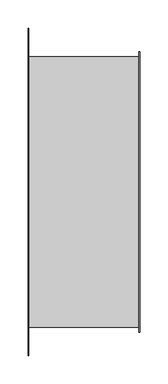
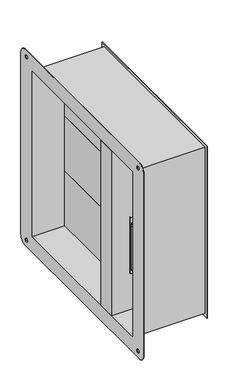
"""IFC4 building model written with IfcOpenShell, lengths in millimetres: damper geometry, СВ_КлапанПротивопожарныйЛифтовой_КДМ-2М-3-ЛС_НЗ_СтеновойПрямоугольный_СВОК : КДМ-3_Привод FS."""

from ifc_helpers import new_model, si_unit, point, frame, frame_2d, origin, origin_2d, place, context, project, spatial, polyline, circle_curve, trimmed, segment, composite_curve, outline, extrude, source, transform, mapped, element, save
from ifc_brep_helpers import plane_surface, cylinder_surface, revolved_surface, advanced_brep


def damper_035a5197(model_context):
    return source(origin(), model_context, "Body", "SolidModel", [
        extrude(outline(polyline([(10.0, -90.0), (-10.0, -90.0), (-10.0, 240.0), (10.0, 240.0), (10.0, -90.0)])), frame((0.0, 0.0, 80.0), z_axis=(0.0, 0.0, 1.0), x_axis=(1.0, 0.0, 0.0)), (0.0, 0.0, 1.0), 160.0),
        extrude(outline(polyline([(10.0, -90.0), (-10.0, -90.0), (-10.0, 240.0), (10.0, 240.0), (10.0, -90.0)])), frame((0.0, 0.0, -80.0), z_axis=(0.0, 0.0, 1.0), x_axis=(1.0, 0.0, 0.0)), (0.0, 0.0, 1.0), 160.0),
        extrude(outline(polyline([(10.0, -90.0), (-10.0, -90.0), (-10.0, 240.0), (10.0, 240.0), (10.0, -90.0)])), frame((0.0, 0.0, -240.0), z_axis=(0.0, 0.0, 1.0), x_axis=(1.0, 0.0, 0.0)), (0.0, 0.0, 1.0), 160.0),
        extrude(outline(polyline([(48.8298911, -140.0), (50.0298911, -140.0), (50.0298911, -145.0), (-50.0, -145.0), (-50.0, -140.0), (-48.8, -140.0), (-48.8, -143.8), (48.8298911, -143.8), (48.8298911, -140.0)])), frame((0.0, 0.0, -132.5), z_axis=(0.0, 0.0, 1.0), x_axis=(1.0, 0.0, 0.0)), (0.0, 0.0, 1.0), 162.5),
        extrude(outline(composite_curve([segment(polyline([(-116.1260091, 50.0298911), (8.1260091, 50.0298911)]), True, "CONTINUOUS"), segment(trimmed(circle_curve(frame_2d((8.1260091, 39.0)), 11.0298911), [point((8.1260091, 50.0298911))], [point((18.5819866, 42.5115572))], False, "CARTESIAN"), True, "CONTINUOUS"), segment(trimmed(circle_curve(frame_2d((-108.0, 0.0)), 133.5298911), [point((18.5819866, 42.5115572))], [point((18.5819866, -42.5115572))], False, "CARTESIAN"), True, "CONTINUOUS"), segment(trimmed(circle_curve(frame_2d((8.1260091, -39.0)), 11.0298911), [point((18.5819866, -42.5115572))], [point((8.1260091, -50.0298911))], False, "CARTESIAN"), True, "CONTINUOUS"), segment(polyline([(8.1260091, -50.0298911), (-116.1260091, -50.0298911)]), True, "CONTINUOUS"), segment(trimmed(circle_curve(frame_2d((-116.1260091, -39.0)), 11.0298911), [point((-116.1260091, -50.0298911))], [point((-126.5819866, -42.5115572))], False, "CARTESIAN"), True, "CONTINUOUS"), segment(trimmed(circle_curve(origin_2d(), 133.5298911), [point((-126.5819866, -42.5115572))], [point((-126.5819866, 42.5115572))], False, "CARTESIAN"), True, "CONTINUOUS"), segment(trimmed(circle_curve(frame_2d((-116.1260091, 39.0)), 11.0298911), [point((-126.5819866, 42.5115572))], [point((-116.1260091, 50.0298911))], False, "CARTESIAN"), True, "CONTINUOUS")], self_intersect=False), holes=[composite_curve([segment(trimmed(circle_curve(frame_2d((-108.0, 0.0)), 132.5), [point((17.6056834, -42.1836735))], [point((17.6056834, 42.1836735))], True, "CARTESIAN"), True, "CONTINUOUS"), segment(trimmed(circle_curve(frame_2d((8.1260091, 39.0)), 10.0), [point((17.6056834, 42.1836735))], [point((8.1260091, 49.0))], True, "CARTESIAN"), True, "CONTINUOUS"), segment(polyline([(8.1260091, 49.0), (-116.1260091, 49.0)]), True, "CONTINUOUS"), segment(trimmed(circle_curve(frame_2d((-116.1260091, 39.0)), 10.0), [point((-116.1260091, 49.0))], [point((-125.6056834, 42.1836735))], True, "CARTESIAN"), True, "CONTINUOUS"), segment(trimmed(circle_curve(origin_2d(), 132.5), [point((-125.6056834, 42.1836735))], [point((-125.6056834, -42.1836735))], True, "CARTESIAN"), True, "CONTINUOUS"), segment(trimmed(circle_curve(frame_2d((-116.1260091, -39.0)), 10.0), [point((-125.6056834, -42.1836735))], [point((-116.1260091, -49.0))], True, "CARTESIAN"), True, "CONTINUOUS"), segment(polyline([(-116.1260091, -49.0), (8.1260091, -49.0)]), True, "CONTINUOUS"), segment(trimmed(circle_curve(frame_2d((8.1260091, -39.0)), 10.0), [point((8.1260091, -49.0))], [point((17.6056834, -42.1836735))], True, "CARTESIAN"), True, "CONTINUOUS")], self_intersect=False)]), frame((0.0, -147.0, 0.0), z_axis=(0.0, 1.0, 0.0), x_axis=(0.0, 0.0, 1.0)), (0.0, 0.0, 1.0), 2.0),
        advanced_brep(
        [(42.1836735, -201.0, 17.6056834), (49.0, -201.0, 8.1260091), (49.0, -203.0, 8.1260091), (42.1836735, -203.0, 17.6056834), (42.5115572, -204.0, 18.5819866), (50.0298911, -204.0, 8.1260091), (50.0298911, -201.0, 8.1260091), (42.5115572, -201.0, 18.5819866), (41.5469388, -203.0, 15.7097485), (47.0, -203.0, 8.1260091), (47.0, -204.0, 8.1260091), (41.5469388, -204.0, 15.7097485), (-42.1836735, -201.0, 17.6056834), (-42.1836735, -203.0, 17.6056834), (-42.5115572, -204.0, 18.5819866), (-42.5115572, -201.0, 18.5819866), (-41.5469388, -203.0, 15.7097485), (-41.5469388, -204.0, 15.7097485), (-49.0, -201.0, 8.1260091), (-49.0, -203.0, 8.1260091), (-50.0298911, -204.0, 8.1260091), (-50.0298911, -201.0, 8.1260091), (-47.0, -203.0, 8.1260091), (-47.0, -204.0, 8.1260091), (-49.0, -203.0, -116.1260091), (-49.0, -201.0, -116.1260091), (-50.0298911, -201.0, -116.1260091), (-50.0298911, -204.0, -116.1260091), (-47.0, -204.0, -116.1260091), (-47.0, -203.0, -116.1260091), (-42.1836735, -201.0, -125.6056834), (-42.1836735, -203.0, -125.6056834), (-42.5115572, -204.0, -126.5819866), (-42.5115572, -201.0, -126.5819866), (-41.5469388, -203.0, -123.7097485), (-41.5469388, -204.0, -123.7097485), (42.1836735, -201.0, -125.6056834), (42.1836735, -203.0, -125.6056834), (42.5115572, -204.0, -126.5819866), (42.5115572, -201.0, -126.5819866), (41.5469388, -203.0, -123.7097485), (41.5469388, -204.0, -123.7097485), (49.0, -201.0, -116.1260091), (49.0, -203.0, -116.1260091), (50.0298911, -204.0, -116.1260091), (50.0298911, -201.0, -116.1260091), (47.0, -203.0, -116.1260091), (47.0, -204.0, -116.1260091)],
        [
            (0, 1, circle_curve(frame((39.0, -201.0, 8.1260091), z_axis=(0.0, 1.0, 0.0), x_axis=(1.0, 0.0, 0.0)), 10.0)),
            (1, 2),
            (2, 3, circle_curve(frame((39.0, -203.0, 8.1260091), z_axis=(0.0, -1.0, 0.0), x_axis=(1.0, 0.0, 0.0)), 10.0)),
            (3, 0),
            (4, 5, circle_curve(frame((39.0, -204.0, 8.1260091), z_axis=(0.0, 1.0, 0.0), x_axis=(1.0, 0.0, 0.0)), 11.0298911)),
            (5, 6),
            (6, 7, circle_curve(frame((39.0, -201.0, 8.1260091), z_axis=(0.0, -1.0, 0.0), x_axis=(1.0, 0.0, 0.0)), 11.0298911)),
            (7, 4),
            (8, 9, circle_curve(frame((39.0, -203.0, 8.1260091), z_axis=(0.0, 1.0, 0.0), x_axis=(1.0, 0.0, 0.0)), 8.0)),
            (9, 10),
            (10, 11, circle_curve(frame((39.0, -204.0, 8.1260091), z_axis=(0.0, -1.0, 0.0), x_axis=(1.0, 0.0, 0.0)), 8.0)),
            (11, 8),
            (12, 0, circle_curve(frame((0.0, -201.0, -108.0), z_axis=(0.0, 1.0, 0.0), x_axis=(0.31836734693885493, 0.0, 0.9479674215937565)), 132.5)),
            (3, 13, circle_curve(frame((0.0, -203.0, -108.0), z_axis=(0.0, -1.0, 0.0), x_axis=(0.31836734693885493, 0.0, 0.9479674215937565)), 132.5)),
            (13, 12),
            (14, 4, circle_curve(frame((0.0, -204.0, -108.0), z_axis=(0.0, 1.0, 0.0), x_axis=(0.31836734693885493, 0.0, 0.9479674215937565)), 133.5298911)),
            (7, 15, circle_curve(frame((0.0, -201.0, -108.0), z_axis=(0.0, -1.0, 0.0), x_axis=(0.31836734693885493, 0.0, 0.9479674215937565)), 133.5298911)),
            (15, 14),
            (16, 8, circle_curve(frame((0.0, -203.0, -108.0), z_axis=(0.0, 1.0, 0.0), x_axis=(0.31836734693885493, 0.0, 0.9479674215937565)), 130.5)),
            (11, 17, circle_curve(frame((0.0, -204.0, -108.0), z_axis=(0.0, -1.0, 0.0), x_axis=(0.31836734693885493, 0.0, 0.9479674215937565)), 130.5)),
            (17, 16),
            (18, 12, circle_curve(frame((-39.0, -201.0, 8.1260091), z_axis=(0.0, 1.0, 0.0), x_axis=(-0.31836734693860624, 0.0, 0.94796742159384)), 10.0)),
            (13, 19, circle_curve(frame((-39.0, -203.0, 8.1260091), z_axis=(0.0, -1.0, 0.0), x_axis=(-0.31836734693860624, 0.0, 0.94796742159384)), 10.0)),
            (19, 18),
            (20, 14, circle_curve(frame((-39.0, -204.0, 8.1260091), z_axis=(0.0, 1.0, 0.0), x_axis=(-0.31836734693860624, 0.0, 0.94796742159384)), 11.0298911)),
            (15, 21, circle_curve(frame((-39.0, -201.0, 8.1260091), z_axis=(0.0, -1.0, 0.0), x_axis=(-0.31836734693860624, 0.0, 0.94796742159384)), 11.0298911)),
            (21, 20),
            (22, 16, circle_curve(frame((-39.0, -203.0, 8.1260091), z_axis=(0.0, 1.0, 0.0), x_axis=(-0.31836734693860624, 0.0, 0.94796742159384)), 8.0)),
            (17, 23, circle_curve(frame((-39.0, -204.0, 8.1260091), z_axis=(0.0, -1.0, 0.0), x_axis=(-0.31836734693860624, 0.0, 0.94796742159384)), 8.0)),
            (23, 22),
            (19, 24),
            (24, 25),
            (25, 18),
            (21, 26),
            (26, 27),
            (27, 20),
            (23, 28),
            (28, 29),
            (29, 22),
            (30, 25, circle_curve(frame((-39.0, -201.0, -116.1260091), z_axis=(0.0, 1.0, 0.0), x_axis=(-1.0, 0.0, 0.0)), 10.0)),
            (24, 31, circle_curve(frame((-39.0, -203.0, -116.1260091), z_axis=(0.0, -1.0, 0.0), x_axis=(-1.0, 0.0, 0.0)), 10.0)),
            (31, 30),
            (32, 27, circle_curve(frame((-39.0, -204.0, -116.1260091), z_axis=(0.0, 1.0, 0.0), x_axis=(-1.0, 0.0, 0.0)), 11.0298911)),
            (26, 33, circle_curve(frame((-39.0, -201.0, -116.1260091), z_axis=(0.0, -1.0, 0.0), x_axis=(-1.0, 0.0, 0.0)), 11.0298911)),
            (33, 32),
            (34, 29, circle_curve(frame((-39.0, -203.0, -116.1260091), z_axis=(0.0, 1.0, 0.0), x_axis=(-1.0, 0.0, 0.0)), 8.0)),
            (28, 35, circle_curve(frame((-39.0, -204.0, -116.1260091), z_axis=(0.0, -1.0, 0.0), x_axis=(-1.0, 0.0, 0.0)), 8.0)),
            (35, 34),
            (36, 30, circle_curve(frame((0.0, -201.0, 0.0), z_axis=(0.0, 1.0, 0.0), x_axis=(-0.3183673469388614, 0.0, -0.9479674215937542)), 132.5)),
            (31, 37, circle_curve(frame((0.0, -203.0, 0.0), z_axis=(0.0, -1.0, 0.0), x_axis=(-0.3183673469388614, 0.0, -0.9479674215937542)), 132.5)),
            (37, 36),
            (38, 32, circle_curve(frame((0.0, -204.0, 0.0), z_axis=(0.0, 1.0, 0.0), x_axis=(-0.3183673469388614, 0.0, -0.9479674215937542)), 133.5298911)),
            (33, 39, circle_curve(frame((0.0, -201.0, 0.0), z_axis=(0.0, -1.0, 0.0), x_axis=(-0.3183673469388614, 0.0, -0.9479674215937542)), 133.5298911)),
            (39, 38),
            (40, 34, circle_curve(frame((0.0, -203.0, 0.0), z_axis=(0.0, 1.0, 0.0), x_axis=(-0.3183673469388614, 0.0, -0.9479674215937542)), 130.5)),
            (35, 41, circle_curve(frame((0.0, -204.0, 0.0), z_axis=(0.0, -1.0, 0.0), x_axis=(-0.3183673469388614, 0.0, -0.9479674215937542)), 130.5)),
            (41, 40),
            (42, 36, circle_curve(frame((39.0, -201.0, -116.1260091), z_axis=(0.0, 1.0, 0.0), x_axis=(0.3183673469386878, 0.0, -0.9479674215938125)), 10.0)),
            (37, 43, circle_curve(frame((39.0, -203.0, -116.1260091), z_axis=(0.0, -1.0, 0.0), x_axis=(0.3183673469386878, 0.0, -0.9479674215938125)), 10.0)),
            (43, 42),
            (44, 38, circle_curve(frame((39.0, -204.0, -116.1260091), z_axis=(0.0, 1.0, 0.0), x_axis=(0.3183673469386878, 0.0, -0.9479674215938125)), 11.0298911)),
            (39, 45, circle_curve(frame((39.0, -201.0, -116.1260091), z_axis=(0.0, -1.0, 0.0), x_axis=(0.3183673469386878, 0.0, -0.9479674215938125)), 11.0298911)),
            (45, 44),
            (46, 40, circle_curve(frame((39.0, -203.0, -116.1260091), z_axis=(0.0, 1.0, 0.0), x_axis=(0.3183673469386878, 0.0, -0.9479674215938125)), 8.0)),
            (41, 47, circle_curve(frame((39.0, -204.0, -116.1260091), z_axis=(0.0, -1.0, 0.0), x_axis=(0.3183673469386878, 0.0, -0.9479674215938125)), 8.0)),
            (47, 46),
            (2, 43),
            (46, 9),
            (1, 42),
            (6, 45),
            (5, 44),
            (10, 47),
        ],
        [
            revolved_surface(polyline([(49.0, -203.0, 8.1260091), (49.0, -201.0, 8.1260091)]), (39.0, -203.0, 8.1260091), (0.0, -1.0, 0.0)),
            cylinder_surface(frame((39.0, -203.0, 8.1260091), z_axis=(0.0, -1.0, 0.0), x_axis=(1.0, 0.0, 0.0)), 11.0298911),
            revolved_surface(polyline([(47.0, -204.0, 8.1260091), (47.0, -203.0, 8.1260091)]), (39.0, -203.0, 8.1260091), (0.0, -1.0, 0.0)),
            revolved_surface(polyline([(42.18367346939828, -203.0, 17.605683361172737), (42.18367346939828, -201.0, 17.605683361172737)]), (0.0, -203.0, -108.0), (0.0, -1.0, 0.0)),
            cylinder_surface(frame((0.0, -203.0, -108.0), z_axis=(0.0, -1.0, 0.0), x_axis=(0.31836734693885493, 0.0, 0.9479674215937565)), 133.5298911),
            revolved_surface(polyline([(41.546938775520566, -204.0, 15.709748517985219), (41.546938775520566, -203.0, 15.709748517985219)]), (0.0, -203.0, -108.0), (0.0, -1.0, 0.0)),
            revolved_surface(polyline([(-42.183673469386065, -203.0, 17.6056833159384), (-42.183673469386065, -201.0, 17.6056833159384)]), (-39.0, -203.0, 8.1260091), (0.0, -1.0, 0.0)),
            cylinder_surface(frame((-39.0, -203.0, 8.1260091), z_axis=(0.0, -1.0, 0.0), x_axis=(-0.31836734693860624, 0.0, 0.94796742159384)), 11.0298911),
            revolved_surface(polyline([(-41.54693877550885, -204.0, 15.709748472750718), (-41.54693877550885, -203.0, 15.709748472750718)]), (-39.0, -203.0, 8.1260091), (0.0, -1.0, 0.0)),
            plane_surface(frame((-49.0, -203.0, 8.1260091), z_axis=(1.0, 0.0, 0.0), x_axis=(0.0, 0.0, -1.0))),
            plane_surface(frame((-50.0298911, -201.0, 8.1260091), z_axis=(-1.0, 0.0, 0.0), x_axis=(0.0, 0.0, -1.0))),
            plane_surface(frame((-47.0, -204.0, 8.1260091), z_axis=(1.0, 0.0, 0.0), x_axis=(0.0, 0.0, -1.0))),
            revolved_surface(polyline([(-49.0, -203.0, -116.1260091), (-49.0, -201.0, -116.1260091)]), (-39.0, -203.0, -116.1260091), (0.0, -1.0, 0.0)),
            cylinder_surface(frame((-39.0, -203.0, -116.1260091), z_axis=(0.0, -1.0, 0.0), x_axis=(-1.0, 0.0, 0.0)), 11.0298911),
            revolved_surface(polyline([(-47.0, -204.0, -116.1260091), (-47.0, -203.0, -116.1260091)]), (-39.0, -203.0, -116.1260091), (0.0, -1.0, 0.0)),
            revolved_surface(polyline([(-42.18367346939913, -203.0, -125.60568336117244), (-42.18367346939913, -201.0, -125.60568336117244)]), (0.0, -203.0, 0.0), (0.0, -1.0, 0.0)),
            cylinder_surface(frame((0.0, -203.0, 0.0), z_axis=(0.0, -1.0, 0.0), x_axis=(-0.3183673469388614, 0.0, -0.9479674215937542)), 133.5298911),
            revolved_surface(polyline([(-41.54693877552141, -204.0, -123.70974851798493), (-41.54693877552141, -203.0, -123.70974851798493)]), (0.0, -203.0, 0.0), (0.0, -1.0, 0.0)),
            revolved_surface(polyline([(42.183673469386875, -203.0, -125.60568331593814), (42.183673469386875, -201.0, -125.60568331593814)]), (39.0, -203.0, -116.1260091), (0.0, -1.0, 0.0)),
            cylinder_surface(frame((39.0, -203.0, -116.1260091), z_axis=(0.0, -1.0, 0.0), x_axis=(0.3183673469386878, 0.0, -0.9479674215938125)), 11.0298911),
            revolved_surface(polyline([(41.5469387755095, -204.0, -123.7097484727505), (41.5469387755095, -203.0, -123.7097484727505)]), (39.0, -203.0, -116.1260091), (0.0, -1.0, 0.0)),
            plane_surface(frame((47.0, -203.0, -116.1260091), z_axis=(0.0, 1.0, 0.0), x_axis=(0.0, 0.0, 1.0))),
            plane_surface(frame((49.0, -203.0, -116.1260091), z_axis=(-1.0, 0.0, 0.0), x_axis=(0.0, 0.0, 1.0))),
            plane_surface(frame((49.0, -201.0, -116.1260091), z_axis=(0.0, 1.0, 0.0), x_axis=(0.0, 0.0, 1.0))),
            plane_surface(frame((50.0298911, -201.0, -116.1260091), z_axis=(1.0, 0.0, 0.0), x_axis=(0.0, 0.0, 1.0))),
            plane_surface(frame((50.0298911, -204.0, -116.1260091), z_axis=(0.0, -1.0, 0.0), x_axis=(0.0, 0.0, 1.0))),
            plane_surface(frame((47.0, -204.0, -116.1260091), z_axis=(-1.0, 0.0, 0.0), x_axis=(0.0, 0.0, 1.0))),
        ],
        [
            (0, [[1, 2, 3, 4]]),
            (1, [[5, 6, 7, 8]]),
            (2, [[9, 10, 11, 12]]),
            (3, [[13, -4, 14, 15]]),
            (4, [[16, -8, 17, 18]]),
            (5, [[19, -12, 20, 21]]),
            (6, [[22, -15, 23, 24]]),
            (7, [[25, -18, 26, 27]]),
            (8, [[28, -21, 29, 30]]),
            (9, [[-24, 31, 32, 33]]),
            (10, [[-27, 34, 35, 36]]),
            (11, [[-30, 37, 38, 39]]),
            (12, [[40, -32, 41, 42]]),
            (13, [[43, -35, 44, 45]]),
            (14, [[46, -38, 47, 48]]),
            (15, [[49, -42, 50, 51]]),
            (16, [[52, -45, 53, 54]]),
            (17, [[55, -48, 56, 57]]),
            (18, [[58, -51, 59, 60]]),
            (19, [[61, -54, 62, 63]]),
            (20, [[64, -57, 65, 66]]),
            (21, [[67, -59, -50, -41, -31, -23, -14, -3], [-55, -64, 68, -9, -19, -28, -39, -46]]),
            (22, [[-60, -67, -2, 69]]),
            (23, [[70, -62, -53, -44, -34, -26, -17, -7], [-49, -58, -69, -1, -13, -22, -33, -40]]),
            (24, [[-63, -70, -6, 71]]),
            (25, [[-52, -61, -71, -5, -16, -25, -36, -43], [72, -65, -56, -47, -37, -29, -20, -11]]),
            (26, [[-66, -72, -10, -68]]),
        ],
    ),
        advanced_brep(
        [(15.0, -174.0, -132.5), (35.0, -174.0, -132.5), (36.9771465, -174.0, -132.5), (13.0228535, -174.0, -132.5), (36.9771465, -174.0, -135.4915282), (13.0228535, -174.0, -135.4915282), (32.9771465, -174.0, -135.4915282), (17.0228535, -174.0, -135.4915282), (32.9771465, -174.0, -137.4754985), (17.0228535, -174.0, -137.4754985), (37.9771465, -174.0, -137.4754985), (12.0228535, -174.0, -137.4754985), (37.9771465, -174.0, -147.4754985), (12.0228535, -174.0, -147.4754985), (34.4416126, -174.0, -151.0110324), (15.5583874, -174.0, -151.0110324), (25.0, -174.0, -151.0110324), (25.0, -174.0, -120.900028), (35.0, -174.0, -120.900028), (15.0, -174.0, -120.900028)],
        [
            (0, 1, circle_curve(frame((25.0, -174.0, -132.5), z_axis=(0.0, 0.0, -1.0), x_axis=(1.0, 0.0, 0.0)), 10.0)),
            (1, 2),
            (2, 3, circle_curve(frame((25.0, -174.0, -132.5), z_axis=(0.0, 0.0, 1.0), x_axis=(1.0, 0.0, 0.0)), 11.9771465)),
            (3, 0),
            (1, 0, circle_curve(frame((25.0, -174.0, -132.5), z_axis=(0.0, 0.0, -1.0), x_axis=(1.0, 0.0, 0.0)), 10.0)),
            (3, 2, circle_curve(frame((25.0, -174.0, -132.5), z_axis=(0.0, 0.0, 1.0), x_axis=(1.0, 0.0, 0.0)), 11.9771465)),
            (2, 4),
            (4, 5, circle_curve(frame((25.0, -174.0, -135.4915282), z_axis=(0.0, 0.0, 1.0), x_axis=(1.0, 0.0, 0.0)), 11.9771465)),
            (5, 3),
            (5, 4, circle_curve(frame((25.0, -174.0, -135.4915282), z_axis=(0.0, 0.0, 1.0), x_axis=(1.0, 0.0, 0.0)), 11.9771465)),
            (4, 6),
            (6, 7, circle_curve(frame((25.0, -174.0, -135.4915282), z_axis=(0.0, 0.0, 1.0), x_axis=(1.0, 0.0, 0.0)), 7.9771465)),
            (7, 5),
            (7, 6, circle_curve(frame((25.0, -174.0, -135.4915282), z_axis=(0.0, 0.0, 1.0), x_axis=(1.0, 0.0, 0.0)), 7.9771465)),
            (6, 8),
            (8, 9, circle_curve(frame((25.0, -174.0, -137.4754985), z_axis=(0.0, 0.0, 1.0), x_axis=(1.0, 0.0, 0.0)), 7.9771465)),
            (9, 7),
            (9, 8, circle_curve(frame((25.0, -174.0, -137.4754985), z_axis=(0.0, 0.0, 1.0), x_axis=(1.0, 0.0, 0.0)), 7.9771465)),
            (8, 10),
            (10, 11, circle_curve(frame((25.0, -174.0, -137.4754985), z_axis=(0.0, 0.0, 1.0), x_axis=(1.0, 0.0, 0.0)), 12.9771465)),
            (11, 9),
            (11, 10, circle_curve(frame((25.0, -174.0, -137.4754985), z_axis=(0.0, 0.0, 1.0), x_axis=(1.0, 0.0, 0.0)), 12.9771465)),
            (10, 12),
            (12, 13, circle_curve(frame((25.0, -174.0, -147.4754985), z_axis=(0.0, 0.0, 1.0), x_axis=(1.0, 0.0, 0.0)), 12.9771465)),
            (13, 11),
            (13, 12, circle_curve(frame((25.0, -174.0, -147.4754985), z_axis=(0.0, 0.0, 1.0), x_axis=(1.0, 0.0, 0.0)), 12.9771465)),
            (12, 14),
            (14, 15, circle_curve(frame((25.0, -174.0, -151.0110324), z_axis=(0.0, 0.0, 1.0), x_axis=(1.0, 0.0, 0.0)), 9.4416126)),
            (15, 13),
            (15, 14, circle_curve(frame((25.0, -174.0, -151.0110324), z_axis=(0.0, 0.0, 1.0), x_axis=(1.0, 0.0, 0.0)), 9.4416126)),
            (14, 16),
            (16, 15),
            (17, 18),
            (18, 19, circle_curve(frame((25.0, -174.0, -120.900028), z_axis=(0.0, 0.0, 1.0), x_axis=(1.0, 0.0, 0.0)), 10.0)),
            (19, 17),
            (19, 18, circle_curve(frame((25.0, -174.0, -120.900028), z_axis=(0.0, 0.0, 1.0), x_axis=(1.0, 0.0, 0.0)), 10.0)),
            (18, 1),
            (0, 19),
        ],
        [
            plane_surface(frame((25.0, -174.0, -132.5), z_axis=(0.0, 0.0, 1.0), x_axis=(1.0, 0.0, 0.0))),
            cylinder_surface(frame((25.0, -174.0, -461.314844), z_axis=(0.0, 0.0, 1.0), x_axis=(1.0, 0.0, 0.0)), 11.9771465),
            plane_surface(frame((25.0, -174.0, -135.4915282), z_axis=(0.0, 0.0, -1.0), x_axis=(1.0, 0.0, 0.0))),
            cylinder_surface(frame((25.0, -174.0, -461.314844), z_axis=(0.0, 0.0, 1.0), x_axis=(1.0, 0.0, 0.0)), 7.9771465),
            plane_surface(frame((25.0, -174.0, -137.4754985), z_axis=(0.0, 0.0, 1.0), x_axis=(1.0, 0.0, 0.0))),
            cylinder_surface(frame((25.0, -174.0, -461.314844), z_axis=(0.0, 0.0, 1.0), x_axis=(1.0, 0.0, 0.0)), 12.9771465),
            revolved_surface(polyline([(34.4416126, -174.0, -151.0110324), (37.9771465, -174.0, -147.4754985)]), (25.0, -174.0, -461.314844), (0.0, 0.0, 1.0)),
            plane_surface(frame((25.0, -174.0, -151.0110324), z_axis=(0.0, 0.0, -1.0), x_axis=(1.0, 0.0, 0.0))),
            plane_surface(frame((25.0, -174.0, -120.900028), z_axis=(0.0, 0.0, 1.0), x_axis=(1.0, 0.0, 0.0))),
            cylinder_surface(frame((25.0, -174.0, -461.314844), z_axis=(0.0, 0.0, 1.0), x_axis=(1.0, 0.0, 0.0)), 10.0),
        ],
        [
            (0, [[1, 2, 3, 4]]),
            (0, [[5, -4, 6, -2]]),
            (1, [[-3, 7, 8, 9]]),
            (1, [[-6, -9, 10, -7]]),
            (2, [[-8, 11, 12, 13]]),
            (2, [[-10, -13, 14, -11]]),
            (3, [[-12, 15, 16, 17]]),
            (3, [[-14, -17, 18, -15]]),
            (4, [[-16, 19, 20, 21]]),
            (4, [[-18, -21, 22, -19]]),
            (5, [[-20, 23, 24, 25]]),
            (5, [[-22, -25, 26, -23]]),
            (6, [[-24, 27, 28, 29]]),
            (6, [[-26, -29, 30, -27]]),
            (7, [[-28, 31, 32]]),
            (7, [[-30, -32, -31]]),
            (8, [[33, 34, 35]]),
            (8, [[-35, 36, -33]]),
            (9, [[-34, 37, -1, 38]]),
            (9, [[-36, -38, -5, -37]]),
        ],
    ),
        advanced_brep(
        [(-13.0228535, -174.0, -132.5), (-36.9771465, -174.0, -132.5), (-35.0, -174.0, -132.5), (-15.0, -174.0, -132.5), (-13.0228535, -174.0, -135.4915282), (-36.9771465, -174.0, -135.4915282), (-17.0228535, -174.0, -135.4915282), (-32.9771465, -174.0, -135.4915282), (-17.0228535, -174.0, -137.4754985), (-32.9771465, -174.0, -137.4754985), (-12.0228535, -174.0, -137.4754985), (-37.9771465, -174.0, -137.4754985), (-12.0228535, -174.0, -147.4754985), (-37.9771465, -174.0, -147.4754985), (-15.5583874, -174.0, -151.0110324), (-34.4416126, -174.0, -151.0110324), (-25.0, -174.0, -151.0110324), (-15.0, -174.0, -120.900028), (-35.0, -174.0, -120.900028), (-25.0, -174.0, -120.900028)],
        [
            (0, 1, circle_curve(frame((-25.0, -174.0, -132.5), z_axis=(0.0, 0.0, 1.0), x_axis=(-1.0, 0.0, 0.0)), 11.9771465)),
            (1, 2),
            (2, 3, circle_curve(frame((-25.0, -174.0, -132.5), z_axis=(0.0, 0.0, -1.0), x_axis=(-1.0, 0.0, 0.0)), 10.0)),
            (3, 0),
            (1, 0, circle_curve(frame((-25.0, -174.0, -132.5), z_axis=(0.0, 0.0, 1.0), x_axis=(-1.0, 0.0, 0.0)), 11.9771465)),
            (3, 2, circle_curve(frame((-25.0, -174.0, -132.5), z_axis=(0.0, 0.0, -1.0), x_axis=(-1.0, 0.0, 0.0)), 10.0)),
            (4, 5, circle_curve(frame((-25.0, -174.0, -135.4915282), z_axis=(0.0, 0.0, 1.0), x_axis=(-1.0, 0.0, 0.0)), 11.9771465)),
            (5, 1),
            (0, 4),
            (5, 4, circle_curve(frame((-25.0, -174.0, -135.4915282), z_axis=(0.0, 0.0, 1.0), x_axis=(-1.0, 0.0, 0.0)), 11.9771465)),
            (6, 7, circle_curve(frame((-25.0, -174.0, -135.4915282), z_axis=(0.0, 0.0, 1.0), x_axis=(-1.0, 0.0, 0.0)), 7.9771465)),
            (7, 5),
            (4, 6),
            (7, 6, circle_curve(frame((-25.0, -174.0, -135.4915282), z_axis=(0.0, 0.0, 1.0), x_axis=(-1.0, 0.0, 0.0)), 7.9771465)),
            (8, 9, circle_curve(frame((-25.0, -174.0, -137.4754985), z_axis=(0.0, 0.0, 1.0), x_axis=(-1.0, 0.0, 0.0)), 7.9771465)),
            (9, 7),
            (6, 8),
            (9, 8, circle_curve(frame((-25.0, -174.0, -137.4754985), z_axis=(0.0, 0.0, 1.0), x_axis=(-1.0, 0.0, 0.0)), 7.9771465)),
            (10, 11, circle_curve(frame((-25.0, -174.0, -137.4754985), z_axis=(0.0, 0.0, 1.0), x_axis=(-1.0, 0.0, 0.0)), 12.9771465)),
            (11, 9),
            (8, 10),
            (11, 10, circle_curve(frame((-25.0, -174.0, -137.4754985), z_axis=(0.0, 0.0, 1.0), x_axis=(-1.0, 0.0, 0.0)), 12.9771465)),
            (12, 13, circle_curve(frame((-25.0, -174.0, -147.4754985), z_axis=(0.0, 0.0, 1.0), x_axis=(-1.0, 0.0, 0.0)), 12.9771465)),
            (13, 11),
            (10, 12),
            (13, 12, circle_curve(frame((-25.0, -174.0, -147.4754985), z_axis=(0.0, 0.0, 1.0), x_axis=(-1.0, 0.0, 0.0)), 12.9771465)),
            (14, 15, circle_curve(frame((-25.0, -174.0, -151.0110324), z_axis=(0.0, 0.0, 1.0), x_axis=(-1.0, 0.0, 0.0)), 9.4416126)),
            (15, 13),
            (12, 14),
            (15, 14, circle_curve(frame((-25.0, -174.0, -151.0110324), z_axis=(0.0, 0.0, 1.0), x_axis=(-1.0, 0.0, 0.0)), 9.4416126)),
            (16, 15),
            (14, 16),
            (17, 18, circle_curve(frame((-25.0, -174.0, -120.900028), z_axis=(0.0, 0.0, 1.0), x_axis=(-1.0, 0.0, 0.0)), 10.0)),
            (18, 19),
            (19, 17),
            (18, 17, circle_curve(frame((-25.0, -174.0, -120.900028), z_axis=(0.0, 0.0, 1.0), x_axis=(-1.0, 0.0, 0.0)), 10.0)),
            (2, 18),
            (17, 3),
        ],
        [
            plane_surface(frame((-25.0, -174.0, -132.5), z_axis=(0.0, 0.0, 1.0), x_axis=(-1.0, 0.0, 0.0))),
            cylinder_surface(frame((-25.0, -174.0, -461.314844), z_axis=(0.0, 0.0, -1.0), x_axis=(-1.0, 0.0, 0.0)), 11.9771465),
            plane_surface(frame((-25.0, -174.0, -135.4915282), z_axis=(0.0, 0.0, -1.0), x_axis=(-1.0, 0.0, 0.0))),
            cylinder_surface(frame((-25.0, -174.0, -461.314844), z_axis=(0.0, 0.0, -1.0), x_axis=(-1.0, 0.0, 0.0)), 7.9771465),
            plane_surface(frame((-25.0, -174.0, -137.4754985), z_axis=(0.0, 0.0, 1.0), x_axis=(-1.0, 0.0, 0.0))),
            cylinder_surface(frame((-25.0, -174.0, -461.314844), z_axis=(0.0, 0.0, -1.0), x_axis=(-1.0, 0.0, 0.0)), 12.9771465),
            revolved_surface(polyline([(-37.9771465, -174.0, -147.4754985), (-34.4416126, -174.0, -151.0110324)]), (-25.0, -174.0, -461.314844), (0.0, 0.0, -1.0)),
            plane_surface(frame((-25.0, -174.0, -151.0110324), z_axis=(0.0, 0.0, -1.0), x_axis=(-1.0, 0.0, 0.0))),
            plane_surface(frame((-25.0, -174.0, -120.900028), z_axis=(0.0, 0.0, 1.0), x_axis=(-1.0, 0.0, 0.0))),
            cylinder_surface(frame((-25.0, -174.0, -461.314844), z_axis=(0.0, 0.0, -1.0), x_axis=(-1.0, 0.0, 0.0)), 10.0),
        ],
        [
            (0, [[1, 2, 3, 4]]),
            (0, [[5, -4, 6, -2]]),
            (1, [[7, 8, -1, 9]]),
            (1, [[10, -9, -5, -8]]),
            (2, [[11, 12, -7, 13]]),
            (2, [[14, -13, -10, -12]]),
            (3, [[15, 16, -11, 17]]),
            (3, [[18, -17, -14, -16]]),
            (4, [[19, 20, -15, 21]]),
            (4, [[22, -21, -18, -20]]),
            (5, [[23, 24, -19, 25]]),
            (5, [[26, -25, -22, -24]]),
            (6, [[27, 28, -23, 29]]),
            (6, [[30, -29, -26, -28]]),
            (7, [[31, -27, 32]]),
            (7, [[-32, -30, -31]]),
            (8, [[33, 34, 35]]),
            (8, [[36, -35, -34]]),
            (9, [[-3, 37, -33, 38]]),
            (9, [[-6, -38, -36, -37]]),
        ],
    ),
        extrude(outline(polyline([(-5.1832695, -2.9925621), (-5.1832695, 2.9925621), (0.0, 5.9851241), (5.1832695, 2.9925621), (5.1832695, -2.9925621), (0.0, -5.9851241), (-5.1832695, -2.9925621)])), frame((0.0, -203.0, 0.0), z_axis=(0.0, 1.0, 0.0), x_axis=(0.0, 0.0, 1.0)), (0.0, 0.0, 1.0), 63.0),
        advanced_brep(
        [(42.1836735, -203.0, -125.6056834), (49.0, -203.0, -116.1260091), (49.0, -203.0, 8.1260091), (42.1836735, -203.0, 17.6056834), (-42.1836735, -203.0, 17.6056834), (-49.0, -203.0, 8.1260091), (-49.0, -203.0, -116.1260091), (-42.1836735, -203.0, -125.6056834), (0.0, -203.0, -19.0), (0.0, -203.0, 19.0), (0.0, -203.0, -18.0), (0.0, -203.0, 18.0), (0.0, -203.0, -15.0), (0.0, -203.0, 15.0), (0.0, -203.0, -14.0), (0.0, -203.0, 14.0), (5.9954463, -203.0, 5.9954463), (5.9954463, -203.0, 2.4898351), (8.4852814, -203.0, 0.0), (5.9954463, -203.0, -2.4898351), (5.9954463, -203.0, -5.9954463), (2.4898351, -203.0, -5.9954463), (0.0, -203.0, -8.4852814), (-2.4898351, -203.0, -5.9954463), (-5.9954463, -203.0, -5.9954463), (-5.9954463, -203.0, -2.4898351), (-8.4852814, -203.0, 0.0), (-5.9954463, -203.0, 2.4898351), (-5.9954463, -203.0, 5.9954463), (-2.4898351, -203.0, 5.9954463), (0.0, -203.0, 8.4852814), (2.4898351, -203.0, 5.9954463), (42.1836735, -145.0, -125.6056834), (-42.1836735, -145.0, -125.6056834), (-49.0, -145.0, -116.1260091), (-49.0, -145.0, 8.1260091), (-42.1836735, -145.0, 17.6056834), (42.1836735, -145.0, 17.6056834), (49.0, -145.0, 8.1260091), (49.0, -145.0, -116.1260091), (0.0, -198.0, 19.0), (0.0, -198.0, -19.0), (0.0, -198.0, 18.0), (0.0, -198.0, -18.0), (0.0, -198.0, 15.0), (0.0, -198.0, -15.0), (0.0, -198.0, 14.0), (0.0, -198.0, -14.0), (5.9954463, -198.0, 2.4898351), (5.9954463, -198.0, 5.9954463), (2.4898351, -198.0, 5.9954463), (0.0, -198.0, 8.4852814), (-2.4898351, -198.0, 5.9954463), (-5.9954463, -198.0, 5.9954463), (-5.9954463, -198.0, 2.4898351), (-8.4852814, -198.0, 0.0), (-5.9954463, -198.0, -2.4898351), (-5.9954463, -198.0, -5.9954463), (-2.4898351, -198.0, -5.9954463), (0.0, -198.0, -8.4852814), (2.4898351, -198.0, -5.9954463), (5.9954463, -198.0, -5.9954463), (5.9954463, -198.0, -2.4898351), (8.4852814, -198.0, 0.0)],
        [
            (0, 1, circle_curve(frame((39.0, -203.0, -116.1260091), z_axis=(0.0, -1.0, 0.0), x_axis=(0.0, 0.0, -1.0)), 10.0)),
            (1, 2),
            (2, 3, circle_curve(frame((39.0, -203.0, 8.1260091), z_axis=(0.0, -1.0, 0.0), x_axis=(0.0, 0.0, -1.0)), 10.0)),
            (3, 4, circle_curve(frame((0.0, -203.0, -108.0), z_axis=(0.0, -1.0, 0.0), x_axis=(0.0, 0.0, -1.0)), 132.5)),
            (4, 5, circle_curve(frame((-39.0, -203.0, 8.1260091), z_axis=(0.0, -1.0, 0.0), x_axis=(0.0, 0.0, -1.0)), 10.0)),
            (5, 6),
            (6, 7, circle_curve(frame((-39.0, -203.0, -116.1260091), z_axis=(0.0, -1.0, 0.0), x_axis=(0.0, 0.0, -1.0)), 10.0)),
            (7, 0, circle_curve(frame((0.0, -203.0, 0.0), z_axis=(0.0, -1.0, 0.0), x_axis=(0.0, 0.0, -1.0)), 132.5)),
            (8, 9, circle_curve(frame((0.0, -203.0, 0.0), z_axis=(0.0, 1.0, 0.0), x_axis=(0.0, 0.0, -1.0)), 19.0)),
            (9, 8, circle_curve(frame((0.0, -203.0, 0.0), z_axis=(0.0, 1.0, 0.0), x_axis=(0.0, 0.0, -1.0)), 19.0)),
            (10, 11, circle_curve(frame((0.0, -203.0, 0.0), z_axis=(0.0, -1.0, 0.0), x_axis=(0.0, 0.0, -1.0)), 18.0)),
            (11, 10, circle_curve(frame((0.0, -203.0, 0.0), z_axis=(0.0, -1.0, 0.0), x_axis=(0.0, 0.0, -1.0)), 18.0)),
            (12, 13, circle_curve(frame((0.0, -203.0, 0.0), z_axis=(0.0, 1.0, 0.0), x_axis=(0.0, 0.0, -1.0)), 15.0)),
            (13, 12, circle_curve(frame((0.0, -203.0, 0.0), z_axis=(0.0, 1.0, 0.0), x_axis=(0.0, 0.0, -1.0)), 15.0)),
            (14, 15, circle_curve(frame((0.0, -203.0, 0.0), z_axis=(0.0, -1.0, 0.0), x_axis=(0.0, 0.0, -1.0)), 14.0)),
            (15, 14, circle_curve(frame((0.0, -203.0, 0.0), z_axis=(0.0, -1.0, 0.0), x_axis=(0.0, 0.0, -1.0)), 14.0)),
            (16, 17),
            (17, 18),
            (18, 19),
            (19, 20),
            (20, 21),
            (21, 22),
            (22, 23),
            (23, 24),
            (24, 25),
            (25, 26),
            (26, 27),
            (27, 28),
            (28, 29),
            (29, 30),
            (30, 31),
            (31, 16),
            (32, 33, circle_curve(frame((0.0, -145.0, 0.0), z_axis=(0.0, 1.0, 0.0), x_axis=(0.0, 0.0, -1.0)), 132.5)),
            (33, 34, circle_curve(frame((-39.0, -145.0, -116.1260091), z_axis=(0.0, 1.0, 0.0), x_axis=(0.0, 0.0, -1.0)), 10.0)),
            (34, 35),
            (35, 36, circle_curve(frame((-39.0, -145.0, 8.1260091), z_axis=(0.0, 1.0, 0.0), x_axis=(0.0, 0.0, -1.0)), 10.0)),
            (36, 37, circle_curve(frame((0.0, -145.0, -108.0), z_axis=(0.0, 1.0, 0.0), x_axis=(0.0, 0.0, -1.0)), 132.5)),
            (37, 38, circle_curve(frame((39.0, -145.0, 8.1260091), z_axis=(0.0, 1.0, 0.0), x_axis=(0.0, 0.0, -1.0)), 10.0)),
            (38, 39),
            (39, 32, circle_curve(frame((39.0, -145.0, -116.1260091), z_axis=(0.0, 1.0, 0.0), x_axis=(0.0, 0.0, -1.0)), 10.0)),
            (0, 32),
            (39, 1),
            (38, 2),
            (37, 3),
            (36, 4),
            (35, 5),
            (34, 6),
            (33, 7),
            (40, 41, circle_curve(frame((0.0, -198.0, 0.0), z_axis=(0.0, -1.0, 0.0), x_axis=(0.0, 0.0, -1.0)), 19.0)),
            (41, 40, circle_curve(frame((0.0, -198.0, 0.0), z_axis=(0.0, -1.0, 0.0), x_axis=(0.0, 0.0, -1.0)), 19.0)),
            (42, 43, circle_curve(frame((0.0, -198.0, 0.0), z_axis=(0.0, 1.0, 0.0), x_axis=(0.0, 0.0, -1.0)), 18.0)),
            (43, 42, circle_curve(frame((0.0, -198.0, 0.0), z_axis=(0.0, 1.0, 0.0), x_axis=(0.0, 0.0, -1.0)), 18.0)),
            (44, 45, circle_curve(frame((0.0, -198.0, 0.0), z_axis=(0.0, -1.0, 0.0), x_axis=(0.0, 0.0, -1.0)), 15.0)),
            (45, 44, circle_curve(frame((0.0, -198.0, 0.0), z_axis=(0.0, -1.0, 0.0), x_axis=(0.0, 0.0, -1.0)), 15.0)),
            (46, 47, circle_curve(frame((0.0, -198.0, 0.0), z_axis=(0.0, 1.0, 0.0), x_axis=(0.0, 0.0, -1.0)), 14.0)),
            (47, 46, circle_curve(frame((0.0, -198.0, 0.0), z_axis=(0.0, 1.0, 0.0), x_axis=(0.0, 0.0, -1.0)), 14.0)),
            (48, 49),
            (49, 50),
            (50, 51),
            (51, 52),
            (52, 53),
            (53, 54),
            (54, 55),
            (55, 56),
            (56, 57),
            (57, 58),
            (58, 59),
            (59, 60),
            (60, 61),
            (61, 62),
            (62, 63),
            (63, 48),
            (40, 9),
            (8, 41),
            (42, 11),
            (10, 43),
            (44, 13),
            (12, 45),
            (46, 15),
            (14, 47),
            (48, 17),
            (16, 49),
            (31, 50),
            (30, 51),
            (29, 52),
            (28, 53),
            (27, 54),
            (26, 55),
            (25, 56),
            (24, 57),
            (23, 58),
            (22, 59),
            (21, 60),
            (20, 61),
            (19, 62),
            (18, 63),
        ],
        [
            plane_surface(frame((39.0, -203.0, -126.1260091), z_axis=(0.0, -1.0, 0.0), x_axis=(1.0, 0.0, 0.0))),
            plane_surface(frame((39.0, -145.0, -126.1260091), z_axis=(0.0, 1.0, 0.0), x_axis=(-1.0, 0.0, 0.0))),
            cylinder_surface(frame((39.0, -145.0, -116.1260091), z_axis=(0.0, -1.0, 0.0), x_axis=(0.0, 0.0, -1.0)), 10.0),
            plane_surface(frame((49.0, -203.0, -116.1260091), z_axis=(1.0, 0.0, 0.0), x_axis=(0.0, 1.0, 0.0))),
            cylinder_surface(frame((39.0, -145.0, 8.1260091), z_axis=(0.0, -1.0, 0.0), x_axis=(0.0, 0.0, -1.0)), 10.0),
            cylinder_surface(frame((0.0, -145.0, -108.0), z_axis=(0.0, -1.0, 0.0), x_axis=(0.0, 0.0, -1.0)), 132.5),
            cylinder_surface(frame((-39.0, -145.0, 8.1260091), z_axis=(0.0, -1.0, 0.0), x_axis=(0.0, 0.0, -1.0)), 10.0),
            plane_surface(frame((-49.0, -203.0, 8.1260091), z_axis=(-1.0, 0.0, 0.0), x_axis=(0.0, 1.0, 0.0))),
            cylinder_surface(frame((-39.0, -145.0, -116.1260091), z_axis=(0.0, -1.0, 0.0), x_axis=(0.0, 0.0, -1.0)), 10.0),
            cylinder_surface(frame((0.0, -145.0, 0.0), z_axis=(0.0, -1.0, 0.0), x_axis=(0.0, 0.0, -1.0)), 132.5),
            plane_surface(frame((0.0, -198.0, -19.0), z_axis=(0.0, -1.0, 0.0), x_axis=(-1.0, 0.0, 0.0))),
            revolved_surface(polyline([(0.0, -203.0, -19.0), (0.0, -198.0, -19.0)]), (0.0, -198.0, 0.0), (0.0, -1.0, 0.0)),
            cylinder_surface(frame((0.0, -140.0, 0.0), z_axis=(0.0, 1.0, 0.0), x_axis=(0.0, 0.0, -1.0)), 18.0),
            revolved_surface(polyline([(0.0, -203.0, -15.0), (0.0, -198.0, -15.0)]), (0.0, -140.0, 0.0), (0.0, -1.0, 0.0)),
            cylinder_surface(frame((0.0, -140.0, 0.0), z_axis=(0.0, 1.0, 0.0), x_axis=(0.0, 0.0, -1.0)), 14.0),
            plane_surface(frame((5.9954463, -203.0, 2.4898351), z_axis=(-1.0, 0.0, 0.0), x_axis=(0.0, 1.0, 0.0))),
            plane_surface(frame((5.9954463, -203.0, 5.9954463), z_axis=(0.0, 0.0, -1.0), x_axis=(0.0, 1.0, 0.0))),
            plane_surface(frame((2.4898351, -203.0, 5.9954463), z_axis=(-0.7071067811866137, 0.0, -0.7071067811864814), x_axis=(0.0, 1.0, 0.0))),
            plane_surface(frame((0.0, -203.0, 8.4852814), z_axis=(0.7071067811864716, 0.0, -0.7071067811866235), x_axis=(0.0, 1.0, 0.0))),
            plane_surface(frame((-2.4898351, -203.0, 5.9954463), z_axis=(0.0, 0.0, -1.0), x_axis=(0.0, 1.0, 0.0))),
            plane_surface(frame((-5.9954463, -203.0, 5.9954463), z_axis=(1.0, 0.0, 0.0), x_axis=(0.0, 1.0, 0.0))),
            plane_surface(frame((-5.9954463, -203.0, 2.4898351), z_axis=(0.7071067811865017, 0.0, -0.7071067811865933), x_axis=(0.0, 1.0, 0.0))),
            plane_surface(frame((-8.4852814, -203.0, 0.0), z_axis=(0.7071067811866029, 0.0, 0.7071067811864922), x_axis=(0.0, 1.0, 0.0))),
            plane_surface(frame((-5.9954463, -203.0, -2.4898351), z_axis=(1.0, 0.0, 0.0), x_axis=(0.0, 1.0, 0.0))),
            plane_surface(frame((-5.9954463, -203.0, -5.9954463), z_axis=(0.0, 0.0, 1.0), x_axis=(0.0, 1.0, 0.0))),
            plane_surface(frame((-2.4898351, -203.0, -5.9954463), z_axis=(0.7071067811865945, 0.0, 0.7071067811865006), x_axis=(0.0, 1.0, 0.0))),
            plane_surface(frame((0.0, -203.0, -8.4852814), z_axis=(-0.707106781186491, 0.0, 0.7071067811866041), x_axis=(0.0, 1.0, 0.0))),
            plane_surface(frame((2.4898351, -203.0, -5.9954463), z_axis=(0.0, 0.0, 1.0), x_axis=(0.0, 1.0, 0.0))),
            plane_surface(frame((5.9954463, -203.0, -5.9954463), z_axis=(-1.0, 0.0, 0.0), x_axis=(0.0, 1.0, 0.0))),
            plane_surface(frame((5.9954463, -203.0, -2.4898351), z_axis=(-0.7071067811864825, 0.0, 0.7071067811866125), x_axis=(0.0, 1.0, 0.0))),
            plane_surface(frame((8.4852814, -203.0, 0.0), z_axis=(-0.7071067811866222, 0.0, -0.707106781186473), x_axis=(0.0, 1.0, 0.0))),
        ],
        [
            (0, [[1, 2, 3, 4, 5, 6, 7, 8], [9, 10]]),
            (0, [[11, 12], [13, 14]]),
            (0, [[15, 16], [17, 18, 19, 20, 21, 22, 23, 24, 25, 26, 27, 28, 29, 30, 31, 32]]),
            (1, [[33, 34, 35, 36, 37, 38, 39, 40]]),
            (2, [[-1, 41, -40, 42]]),
            (3, [[-2, -42, -39, 43]]),
            (4, [[-3, -43, -38, 44]]),
            (5, [[-4, -44, -37, 45]]),
            (6, [[-5, -45, -36, 46]]),
            (7, [[-6, -46, -35, 47]]),
            (8, [[-7, -47, -34, 48]]),
            (9, [[-8, -48, -33, -41]]),
            (10, [[49, 50], [51, 52]]),
            (10, [[53, 54], [55, 56]]),
            (10, [[57, 58, 59, 60, 61, 62, 63, 64, 65, 66, 67, 68, 69, 70, 71, 72]]),
            (11, [[-49, 73, -9, 74]]),
            (11, [[-50, -74, -10, -73]]),
            (12, [[-51, 75, -11, 76]]),
            (12, [[-52, -76, -12, -75]]),
            (13, [[-53, 77, -13, 78]]),
            (13, [[-54, -78, -14, -77]]),
            (14, [[-55, 79, -15, 80]]),
            (14, [[-56, -80, -16, -79]]),
            (15, [[-57, 81, -17, 82]]),
            (16, [[-58, -82, -32, 83]]),
            (17, [[-59, -83, -31, 84]]),
            (18, [[-60, -84, -30, 85]]),
            (19, [[-61, -85, -29, 86]]),
            (20, [[-62, -86, -28, 87]]),
            (21, [[-63, -87, -27, 88]]),
            (22, [[-64, -88, -26, 89]]),
            (23, [[-65, -89, -25, 90]]),
            (24, [[-66, -90, -24, 91]]),
            (25, [[-67, -91, -23, 92]]),
            (26, [[-68, -92, -22, 93]]),
            (27, [[-69, -93, -21, 94]]),
            (28, [[-70, -94, -20, 95]]),
            (29, [[-71, -95, -19, 96]]),
            (30, [[-72, -96, -18, -81]]),
        ],
    ),
        extrude(outline(polyline([(100.0, -90.0), (100.0, -140.0), (-100.0, -140.0), (-100.0, -90.0), (100.0, -90.0)])), frame((0.0, 0.0, -240.0), z_axis=(0.0, 0.0, 1.0), x_axis=(1.0, 0.0, 0.0)), (0.0, 0.0, 1.0), 480.0),
        advanced_brep(
        [(-100.0, -272.5, 285.0), (-100.0, 272.5, 285.0), (-100.0, 292.5, 265.0), (-100.0, 292.5, -265.0), (-100.0, 272.5, -285.0), (-100.0, -272.5, -285.0), (-100.0, -292.5, -265.0), (-100.0, -292.5, 265.0), (-100.0, -240.0, 240.0), (-100.0, -240.0, -240.0), (-100.0, 240.0, -240.0), (-100.0, 240.0, 240.0), (-100.0, 261.25, 266.25), (-100.0, 271.25, 266.25), (-100.0, -271.25, 266.25), (-100.0, -261.25, 266.25), (-100.0, -271.25, -266.25), (-100.0, -261.25, -266.25), (-100.0, 261.25, -266.25), (-100.0, 271.25, -266.25), (-98.8, -272.5, 285.0), (-98.8, -292.5, 265.0), (-98.8, -292.5, -265.0), (-98.8, -272.5, -285.0), (-98.8, 272.5, -285.0), (-98.8, 292.5, -265.0), (-98.8, 292.5, 265.0), (-98.8, 272.5, 285.0), (-98.8, -241.2, 241.2), (-98.8, 241.2, 241.2), (-98.8, 241.2, -241.2), (-98.8, -241.2, -241.2), (-98.8, 271.25, 266.25), (-98.8, 261.25, 266.25), (-98.8, -261.25, 266.25), (-98.8, -271.25, 266.25), (-98.8, -261.25, -266.25), (-98.8, -271.25, -266.25), (-98.8, 271.25, -266.25), (-98.8, 261.25, -266.25), (100.0, -250.0, 250.0), (100.0, -250.0, -250.0), (100.0, 250.0, -250.0), (100.0, 250.0, 250.0), (100.0, -240.0, 240.0), (100.0, 240.0, 240.0), (100.0, 240.0, -240.0), (100.0, -240.0, -240.0), (98.8, -241.2, 241.2), (98.8, 241.2, 241.2), (98.8, -241.2, -241.2), (98.8, 241.2, -241.2), (98.8, 240.0, 240.0), (98.8, -240.0, 240.0), (98.8, -140.0, 240.0), (97.6, -140.0, 240.0), (97.6, -240.0, 240.0), (98.8, 240.0, -240.0), (97.6, -240.0, -240.0), (97.6, -140.0, -240.0), (98.8, -140.0, -240.0), (98.8, -240.0, -240.0), (98.8, -250.0, 250.0), (98.8, 250.0, 250.0), (98.8, 250.0, -250.0), (98.8, -250.0, -250.0)],
        [
            (0, 1),
            (1, 2, circle_curve(frame((-100.0, 272.5, 265.0), z_axis=(-1.0, 0.0, 0.0), x_axis=(0.0, 1.0, 0.0)), 20.0)),
            (2, 3),
            (3, 4, circle_curve(frame((-100.0, 272.5, -265.0), z_axis=(-1.0, 0.0, 0.0), x_axis=(0.0, 1.0, 0.0)), 20.0)),
            (4, 5),
            (5, 6, circle_curve(frame((-100.0, -272.5, -265.0), z_axis=(-1.0, 0.0, 0.0), x_axis=(0.0, 1.0, 0.0)), 20.0)),
            (6, 7),
            (7, 0, circle_curve(frame((-100.0, -272.5, 265.0), z_axis=(-1.0, 0.0, 0.0), x_axis=(0.0, 1.0, 0.0)), 20.0)),
            (8, 9),
            (9, 10),
            (10, 11),
            (11, 8),
            (12, 13, circle_curve(frame((-100.0, 266.25, 266.25), z_axis=(1.0, 0.0, 0.0), x_axis=(0.0, 1.0, 0.0)), 5.0)),
            (13, 12, circle_curve(frame((-100.0, 266.25, 266.25), z_axis=(1.0, 0.0, 0.0), x_axis=(0.0, 1.0, 0.0)), 5.0)),
            (14, 15, circle_curve(frame((-100.0, -266.25, 266.25), z_axis=(1.0, 0.0, 0.0), x_axis=(0.0, 1.0, 0.0)), 5.0)),
            (15, 14, circle_curve(frame((-100.0, -266.25, 266.25), z_axis=(1.0, 0.0, 0.0), x_axis=(0.0, 1.0, 0.0)), 5.0)),
            (16, 17, circle_curve(frame((-100.0, -266.25, -266.25), z_axis=(1.0, 0.0, 0.0), x_axis=(0.0, 1.0, 0.0)), 5.0)),
            (17, 16, circle_curve(frame((-100.0, -266.25, -266.25), z_axis=(1.0, 0.0, 0.0), x_axis=(0.0, 1.0, 0.0)), 5.0)),
            (18, 19, circle_curve(frame((-100.0, 266.25, -266.25), z_axis=(1.0, 0.0, 0.0), x_axis=(0.0, 1.0, 0.0)), 5.0)),
            (19, 18, circle_curve(frame((-100.0, 266.25, -266.25), z_axis=(1.0, 0.0, 0.0), x_axis=(0.0, 1.0, 0.0)), 5.0)),
            (20, 21, circle_curve(frame((-98.8, -272.5, 265.0), z_axis=(1.0, 0.0, 0.0), x_axis=(0.0, 1.0, 0.0)), 20.0)),
            (21, 22),
            (22, 23, circle_curve(frame((-98.8, -272.5, -265.0), z_axis=(1.0, 0.0, 0.0), x_axis=(0.0, 1.0, 0.0)), 20.0)),
            (23, 24),
            (24, 25, circle_curve(frame((-98.8, 272.5, -265.0), z_axis=(1.0, 0.0, 0.0), x_axis=(0.0, 1.0, 0.0)), 20.0)),
            (25, 26),
            (26, 27, circle_curve(frame((-98.8, 272.5, 265.0), z_axis=(1.0, 0.0, 0.0), x_axis=(0.0, 1.0, 0.0)), 20.0)),
            (27, 20),
            (28, 29),
            (29, 30),
            (30, 31),
            (31, 28),
            (32, 33, circle_curve(frame((-98.8, 266.25, 266.25), z_axis=(-1.0, 0.0, 0.0), x_axis=(0.0, 1.0, 0.0)), 5.0)),
            (33, 32, circle_curve(frame((-98.8, 266.25, 266.25), z_axis=(-1.0, 0.0, 0.0), x_axis=(0.0, 1.0, 0.0)), 5.0)),
            (34, 35, circle_curve(frame((-98.8, -266.25, 266.25), z_axis=(-1.0, 0.0, 0.0), x_axis=(0.0, 1.0, 0.0)), 5.0)),
            (35, 34, circle_curve(frame((-98.8, -266.25, 266.25), z_axis=(-1.0, 0.0, 0.0), x_axis=(0.0, 1.0, 0.0)), 5.0)),
            (36, 37, circle_curve(frame((-98.8, -266.25, -266.25), z_axis=(-1.0, 0.0, 0.0), x_axis=(0.0, 1.0, 0.0)), 5.0)),
            (37, 36, circle_curve(frame((-98.8, -266.25, -266.25), z_axis=(-1.0, 0.0, 0.0), x_axis=(0.0, 1.0, 0.0)), 5.0)),
            (38, 39, circle_curve(frame((-98.8, 266.25, -266.25), z_axis=(-1.0, 0.0, 0.0), x_axis=(0.0, 1.0, 0.0)), 5.0)),
            (39, 38, circle_curve(frame((-98.8, 266.25, -266.25), z_axis=(-1.0, 0.0, 0.0), x_axis=(0.0, 1.0, 0.0)), 5.0)),
            (40, 41),
            (41, 42),
            (42, 43),
            (43, 40),
            (44, 45),
            (45, 46),
            (46, 47),
            (47, 44),
            (28, 48),
            (48, 49),
            (49, 29),
            (31, 50),
            (50, 48),
            (30, 51),
            (51, 50),
            (49, 51),
            (11, 52),
            (52, 45),
            (44, 53),
            (53, 54),
            (54, 55),
            (55, 56),
            (56, 8),
            (10, 57),
            (57, 46),
            (9, 58),
            (58, 59),
            (59, 60),
            (60, 61),
            (61, 47),
            (56, 58),
            (61, 53),
            (6, 22),
            (21, 7),
            (4, 24),
            (23, 5),
            (2, 26),
            (25, 3),
            (0, 20),
            (27, 1),
            (32, 13),
            (12, 33),
            (34, 15),
            (14, 35),
            (36, 17),
            (16, 37),
            (38, 19),
            (18, 39),
            (62, 63),
            (63, 64),
            (64, 65),
            (65, 62),
            (65, 41),
            (40, 62),
            (64, 42),
            (63, 43),
            (54, 60),
            (59, 55),
        ],
        [
            plane_surface(frame((-100.0, 240.0, 240.0), z_axis=(-1.0, 0.0, 0.0), x_axis=(0.0, -1.0, 0.0))),
            plane_surface(frame((-98.8, 240.0, 240.0), z_axis=(1.0, 0.0, 0.0), x_axis=(0.0, 1.0, 0.0))),
            plane_surface(frame((100.0, 240.0, 240.0), z_axis=(1.0, 0.0, 0.0), x_axis=(0.0, 1.0, 0.0))),
            plane_surface(frame((100.0, 241.2, 241.2), z_axis=(0.0, 0.0, 1.0), x_axis=(-1.0, 0.0, 0.0))),
            plane_surface(frame((100.0, -241.2, 241.2), z_axis=(0.0, -1.0, 0.0), x_axis=(-1.0, 0.0, 0.0))),
            plane_surface(frame((100.0, -241.2, -241.2), z_axis=(0.0, 0.0, -1.0), x_axis=(-1.0, 0.0, 0.0))),
            plane_surface(frame((100.0, 241.2, -241.2), z_axis=(0.0, 1.0, 0.0), x_axis=(-1.0, 0.0, 0.0))),
            plane_surface(frame((-98.8, -240.0, 240.0), z_axis=(0.0, 0.0, -1.0), x_axis=(-1.0, 0.0, 0.0))),
            plane_surface(frame((-98.8, 240.0, 240.0), z_axis=(0.0, -1.0, 0.0), x_axis=(-1.0, 0.0, 0.0))),
            plane_surface(frame((-98.8, 240.0, -240.0), z_axis=(0.0, 0.0, 1.0), x_axis=(-1.0, 0.0, 0.0))),
            plane_surface(frame((-98.8, -240.0, -240.0), z_axis=(0.0, 1.0, 0.0), x_axis=(-1.0, 0.0, 0.0))),
            plane_surface(frame((-98.8, -292.5, 265.0), z_axis=(0.0, -1.0, 0.0), x_axis=(-1.0, 0.0, 0.0))),
            plane_surface(frame((-98.8, -272.5, -285.0), z_axis=(0.0, 0.0, -1.0), x_axis=(-1.0, 0.0, 0.0))),
            plane_surface(frame((-98.8, 292.5, -265.0), z_axis=(0.0, 1.0, 0.0), x_axis=(-1.0, 0.0, 0.0))),
            plane_surface(frame((-98.8, 272.5, 285.0), z_axis=(0.0, 0.0, 1.0), x_axis=(-1.0, 0.0, 0.0))),
            revolved_surface(polyline([(-98.8, 271.25, 266.25), (-100.0, 271.25, 266.25)]), (-100.0, 266.25, 266.25), (1.0, 0.0, 0.0)),
            revolved_surface(polyline([(-98.8, -261.25, 266.25), (-100.0, -261.25, 266.25)]), (-10.0, -266.25, 266.25), (1.0, 0.0, 0.0)),
            revolved_surface(polyline([(-98.8, -261.25, -266.25), (-100.0, -261.25, -266.25)]), (-10.0, -266.25, -266.25), (1.0, 0.0, 0.0)),
            revolved_surface(polyline([(-98.8, 271.25, -266.25), (-100.0, 271.25, -266.25)]), (-10.0, 266.25, -266.25), (1.0, 0.0, 0.0)),
            cylinder_surface(frame((0.0, -272.5, 265.0), z_axis=(1.0, 0.0, 0.0), x_axis=(0.0, 1.0, 0.0)), 20.0),
            cylinder_surface(frame((0.0, -272.5, -265.0), z_axis=(1.0, 0.0, 0.0), x_axis=(0.0, 1.0, 0.0)), 20.0),
            cylinder_surface(frame((0.0, 272.5, -265.0), z_axis=(1.0, 0.0, 0.0), x_axis=(0.0, 1.0, 0.0)), 20.0),
            cylinder_surface(frame((0.0, 272.5, 265.0), z_axis=(1.0, 0.0, 0.0), x_axis=(0.0, 1.0, 0.0)), 20.0),
            plane_surface(frame((98.8, 240.0, 240.0), z_axis=(-1.0, 0.0, 0.0), x_axis=(0.0, -1.0, 0.0))),
            plane_surface(frame((100.0, -250.0, 250.0), z_axis=(0.0, -1.0, 0.0), x_axis=(-1.0, 0.0, 0.0))),
            plane_surface(frame((100.0, -250.0, -250.0), z_axis=(0.0, 0.0, -1.0), x_axis=(-1.0, 0.0, 0.0))),
            plane_surface(frame((100.0, 250.0, -250.0), z_axis=(0.0, 1.0, 0.0), x_axis=(-1.0, 0.0, 0.0))),
            plane_surface(frame((100.0, 250.0, 250.0), z_axis=(0.0, 0.0, 1.0), x_axis=(-1.0, 0.0, 0.0))),
            plane_surface(frame((98.8, -140.0, 240.0), z_axis=(0.0, 1.0, 0.0), x_axis=(0.0, 0.0, -1.0))),
            plane_surface(frame((97.6, -140.0, 240.0), z_axis=(-1.0, 0.0, 0.0), x_axis=(0.0, 0.0, -1.0))),
            plane_surface(frame((98.8, -240.0, 240.0), z_axis=(1.0, 0.0, 0.0), x_axis=(0.0, 0.0, -1.0))),
        ],
        [
            (0, [[1, 2, 3, 4, 5, 6, 7, 8], [9, 10, 11, 12], [13, 14], [15, 16], [17, 18], [19, 20]]),
            (1, [[21, 22, 23, 24, 25, 26, 27, 28], [29, 30, 31, 32], [33, 34], [35, 36], [37, 38], [39, 40]]),
            (2, [[41, 42, 43, 44], [45, 46, 47, 48]]),
            (3, [[-29, 49, 50, 51]]),
            (4, [[-32, 52, 53, -49]]),
            (5, [[-31, 54, 55, -52]]),
            (6, [[-30, -51, 56, -54]]),
            (7, [[-12, 57, 58, -45, 59, 60, 61, 62, 63]]),
            (8, [[-11, 64, 65, -46, -58, -57]]),
            (9, [[-10, 66, 67, 68, 69, 70, -47, -65, -64]]),
            (10, [[-9, -63, 71, -66]]),
            (10, [[-48, -70, 72, -59]]),
            (11, [[-7, 73, -22, 74]]),
            (12, [[-5, 75, -24, 76]]),
            (13, [[-3, 77, -26, 78]]),
            (14, [[-1, 79, -28, 80]]),
            (15, [[81, -13, 82, -33]]),
            (15, [[-81, -34, -82, -14]]),
            (16, [[83, -15, 84, -35]]),
            (16, [[-83, -36, -84, -16]]),
            (17, [[85, -17, 86, -37]]),
            (17, [[-85, -38, -86, -18]]),
            (18, [[87, -19, 88, -39]]),
            (18, [[-87, -40, -88, -20]]),
            (19, [[-8, -74, -21, -79]]),
            (20, [[-6, -76, -23, -73]]),
            (21, [[-4, -78, -25, -75]]),
            (22, [[-2, -80, -27, -77]]),
            (23, [[89, 90, 91, 92], [-50, -53, -55, -56]]),
            (24, [[-92, 93, -41, 94]]),
            (25, [[-91, 95, -42, -93]]),
            (26, [[-90, 96, -43, -95]]),
            (27, [[-89, -94, -44, -96]]),
            (28, [[97, -68, 98, -61]]),
            (29, [[-98, -67, -71, -62]]),
            (30, [[-97, -60, -72, -69]]),
        ],
    ),
    ])


if __name__ == "__main__":
    model = new_model("IFC4")
    model_context = context("Model", 3, world=origin())
    ifc_project = project(units=[si_unit("LENGTHUNIT", "METRE", prefix="MILLI")], contexts=[model_context])
    site = spatial("IfcSite", under=ifc_project)
    building = spatial("IfcBuilding", under=site)
    placement = place(None, origin())
    damper_shape = damper_035a5197(model_context)
    element("IfcDamper", 1, ObjectType="СВ_КлапанПротивопожарныйЛифтовой_КДМ-2М-3-ЛС_НЗ_СтеновойПрямоугольный_СВОК : КДМ-3_Привод FS", at=placement, inside=building, context=model_context, shape_type="MappedRepresentation", body=[
        mapped(damper_shape, transform((0.0, 0.0, 0.0), x_axis=(1.0, 0.0, 0.0), y_axis=(0.0, 1.0, 0.0), z_axis=(0.0, 0.0, 1.0))),
    ])
    save(model, "model.ifc")
